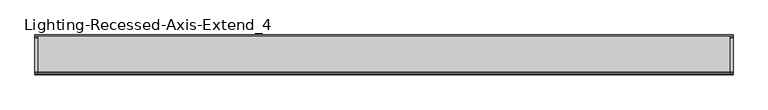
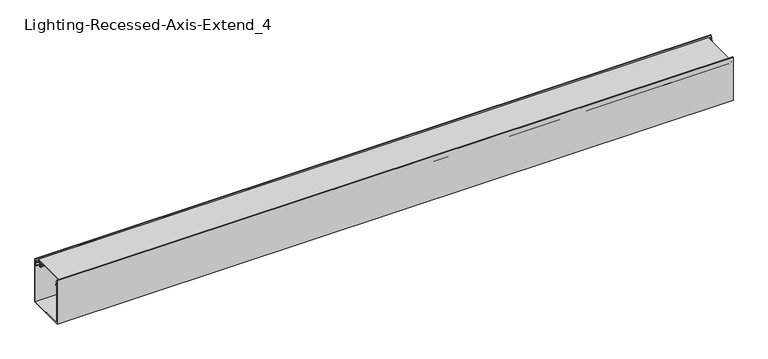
"""IFC4 building model written with IfcOpenShell, lengths in millimetres: light fixture geometry, Lighting-Recessed-Axis-Extend_4 : EX4R-900-80-35-SO-4."""

from ifc_helpers import new_model, si_unit, point, frame, frame_2d, origin, place, context, project, spatial, polyline, circle_curve, trimmed, segment, composite_curve, outline, extrude, source, transform, mapped, element, save


def lighting_recessed_axis_extend_4_53cd2307(model_context):
    return source(origin(), model_context, "Body", "SweptSolid", [
        extrude(outline(composite_curve([segment(polyline([(-44.9537362, -4.8895009), (-45.2924281, -11.3521263)]), True, "CONTINUOUS"), segment(trimmed(circle_curve(frame_2d((-48.03521, -14.351)), 4.064), [point((-45.2924281, -11.3521263))], [point((-46.1628914, -17.9580097))], False, "CARTESIAN"), True, "CONTINUOUS"), segment(trimmed(circle_curve(frame_2d((-42.930354, -17.1691543)), 3.3274001), [point((-46.1628914, -17.9580097))], [point((-45.3476056, -19.4557425))], True, "CARTESIAN"), True, "CONTINUOUS"), segment(trimmed(circle_curve(frame_2d((-37.9113277, -12.4214292)), 10.2362001), [point((-45.3476056, -19.4557425))], [point((-43.9929166, -20.6551445))], True, "CARTESIAN"), True, "CONTINUOUS"), segment(trimmed(circle_curve(frame_2d((-44.4833673, -21.3191538)), 0.8255), [point((-43.9929166, -20.6551445))], [point((-44.973818, -21.9831631))], False, "CARTESIAN"), True, "CONTINUOUS"), segment(trimmed(circle_curve(frame_2d((-37.9113269, -12.4214283)), 11.8872013), [point((-44.973818, -21.9831631))], [point((-46.5470052, -20.5903092))], False, "CARTESIAN"), True, "CONTINUOUS"), segment(trimmed(circle_curve(frame_2d((-42.930354, -17.1691543)), 4.9784001), [point((-46.5470052, -20.5903092))], [point((-47.8918907, -16.75974))], False, "CARTESIAN"), True, "CONTINUOUS"), segment(trimmed(circle_curve(frame_2d((-48.03521, -14.351)), 2.413), [point((-47.8918907, -16.75974))], [point((-46.2564041, -12.7205342))], True, "CARTESIAN"), True, "CONTINUOUS"), segment(trimmed(circle_curve(frame_2d((-44.3839769, -11.0042544)), 2.54), [point((-46.2564041, -12.7205342))], [point((-46.9204959, -10.8713211))], False, "CARTESIAN"), True, "CONTINUOUS"), segment(polyline([(-46.9204959, -10.8713211), (-46.607002, -4.8895009), (-49.61001, -4.8895009), (-49.61001, -2.9845), (49.61001, -2.9845), (49.61001, -4.8895009), (46.607002, -4.8895009), (46.9204959, -10.8713211)]), True, "CONTINUOUS"), segment(trimmed(circle_curve(frame_2d((44.3839769, -11.0042544)), 2.54), [point((46.9204959, -10.8713211))], [point((46.2564041, -12.7205342))], False, "CARTESIAN"), True, "CONTINUOUS"), segment(trimmed(circle_curve(frame_2d((48.03521, -14.351)), 2.413), [point((46.2564041, -12.7205342))], [point((47.8918907, -16.75974))], True, "CARTESIAN"), True, "CONTINUOUS"), segment(trimmed(circle_curve(frame_2d((42.930354, -17.1691543)), 4.9784001), [point((47.8918907, -16.75974))], [point((46.5470052, -20.5903092))], False, "CARTESIAN"), True, "CONTINUOUS"), segment(trimmed(circle_curve(frame_2d((37.9113269, -12.4214283)), 11.8872013), [point((46.5470052, -20.5903092))], [point((44.973818, -21.9831631))], False, "CARTESIAN"), True, "CONTINUOUS"), segment(trimmed(circle_curve(frame_2d((44.4833673, -21.3191538)), 0.8255), [point((44.973818, -21.9831631))], [point((43.9929166, -20.6551445))], False, "CARTESIAN"), True, "CONTINUOUS"), segment(trimmed(circle_curve(frame_2d((37.9113277, -12.4214292)), 10.2362001), [point((43.9929166, -20.6551445))], [point((45.3476056, -19.4557425))], True, "CARTESIAN"), True, "CONTINUOUS"), segment(trimmed(circle_curve(frame_2d((42.930354, -17.1691543)), 3.3274001), [point((45.3476056, -19.4557425))], [point((46.1628914, -17.9580097))], True, "CARTESIAN"), True, "CONTINUOUS"), segment(trimmed(circle_curve(frame_2d((48.03521, -14.351)), 4.064), [point((46.1628914, -17.9580097))], [point((45.2924281, -11.3521263))], False, "CARTESIAN"), True, "CONTINUOUS"), segment(polyline([(45.2924281, -11.3521263), (44.9537362, -4.8895009), (-44.9537362, -4.8895009)]), True, "CONTINUOUS")], self_intersect=False)), frame((-914.4, 0.0, 0.0), z_axis=(1.0, 0.0, 0.0), x_axis=(0.0, 1.0, 0.0)), (0.0, 0.0, 1.0), 1828.8),
        extrude(outline(composite_curve([segment(polyline([(-50.75301, -14.9098), (-50.75301, -122.7455), (50.75301, -122.7455), (50.75301, -14.9098), (48.9135897, -14.9098)]), True, "CONTINUOUS"), segment(trimmed(circle_curve(frame_2d((47.4072397, -14.9098)), 1.5063501), [point((48.9135897, -14.9098))], [point((46.6540646, -16.2143374))], False, "CARTESIAN"), True, "CONTINUOUS"), segment(trimmed(circle_curve(frame_2d((47.8452221, -14.1511921)), 2.382315), [point((46.6540646, -16.2143374))], [point((45.4706616, -13.9591318))], False, "CARTESIAN"), True, "CONTINUOUS"), segment(polyline([(45.4706616, -13.9591318), (48.84801, -11.1252), (48.84801, -12.8778), (50.75301, -12.8778), (50.75301, -6.35), (48.84801, -6.35), (48.84801, -7.874), (47.19701, -7.7874748), (47.19701, -5.08), (50.75301, -5.08), (50.75301, 0.0), (52.78501, 0.0), (52.78501, -124.7775), (-52.78501, -124.7775), (-52.78501, 0.0), (-50.75301, 0.0), (-50.75301, -5.08), (-47.19701, -5.08), (-47.19701, -7.7874748), (-48.84801, -7.874), (-48.84801, -6.35), (-50.75301, -6.35), (-50.75301, -12.8778), (-48.84801, -12.8778), (-48.84801, -11.1252), (-45.4706616, -13.9591318)]), True, "CONTINUOUS"), segment(trimmed(circle_curve(frame_2d((-47.8452221, -14.1511921)), 2.382315), [point((-45.4706616, -13.9591318))], [point((-46.6540646, -16.2143374))], False, "CARTESIAN"), True, "CONTINUOUS"), segment(trimmed(circle_curve(frame_2d((-47.4072397, -14.9098)), 1.5063501), [point((-46.6540646, -16.2143374))], [point((-48.9135897, -14.9098))], False, "CARTESIAN"), True, "CONTINUOUS"), segment(polyline([(-48.9135897, -14.9098), (-50.75301, -14.9098)]), True, "CONTINUOUS")], self_intersect=False)), frame((-923.5567, 0.0, 0.0), z_axis=(1.0, 0.0, 0.0), x_axis=(0.0, 1.0, 0.0)), (0.0, 0.0, 1.0), 1847.1134),
    ])


if __name__ == "__main__":
    model = new_model("IFC4")
    model_context = context("Model", 3, world=origin())
    ifc_project = project(units=[si_unit("LENGTHUNIT", "METRE", prefix="MILLI")], contexts=[model_context])
    site = spatial("IfcSite", under=ifc_project)
    building = spatial("IfcBuilding", under=site)
    placement = place(None, origin())
    lighting_recessed_axis_extend_4_shape = lighting_recessed_axis_extend_4_53cd2307(model_context)
    element("IfcLightFixture", 1, ObjectType="Lighting-Recessed-Axis-Extend_4 : EX4R-900-80-35-SO-4", at=placement, inside=building, context=model_context, shape_type="MappedRepresentation", body=[
        mapped(lighting_recessed_axis_extend_4_shape, transform((0.0, 0.0, 0.0), x_axis=(1.0, 0.0, 0.0), y_axis=(0.0, 1.0, 0.0), z_axis=(0.0, 0.0, 1.0))),
    ])
    save(model, "model.ifc")
